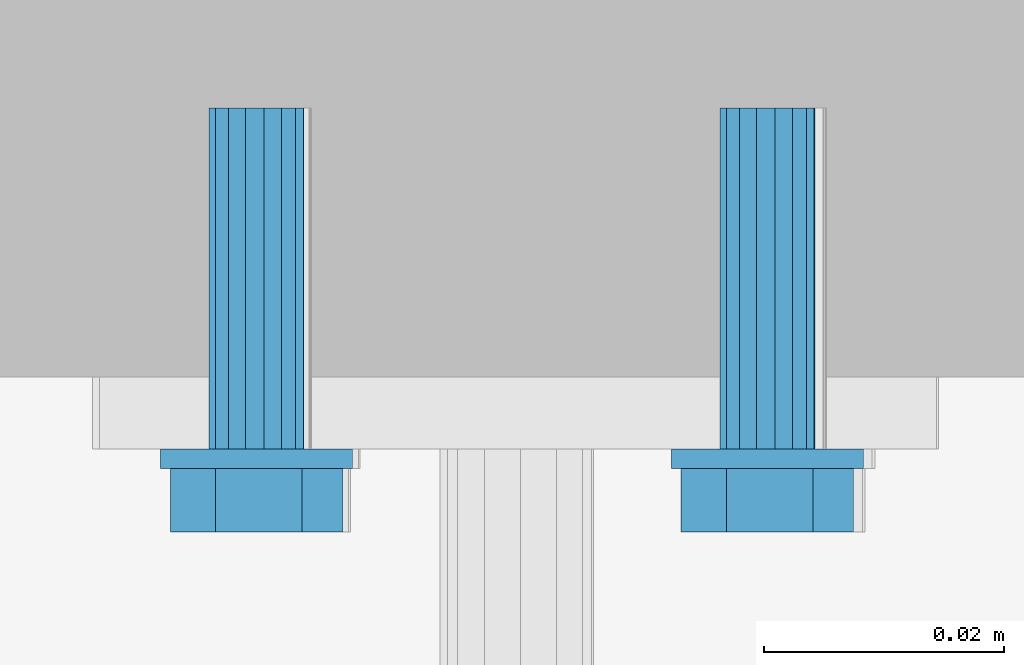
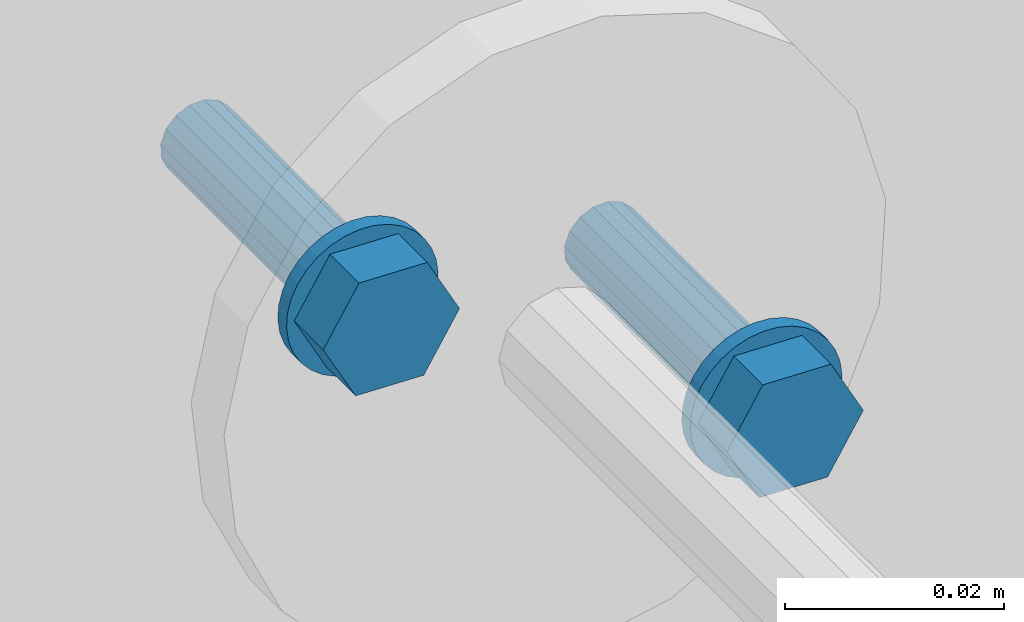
# One storey, part 360 of 410: 1 mechanical fastener.
"""IFC2X3 building model written with IfcOpenShell, lengths in millimetres."""

import ifcopenshell
import ifcopenshell.guid

model = None  # the IFC model being written
_history = None  # IfcOwnerHistory: only IFC2X3 demands one
_inside = {}  # id of a spatial element -> (the spatial element, [elements in it])
_under = {}  # id of a project, library or spatial element -> (it, [spatial elements below it])
_declared = {}  # id of a project -> (the project, [libraries it declares])
_typed = {}  # id of a type object -> (the type object, [elements of that type])
_made_of = {}  # id of a material, layer set ... -> (it, [elements and type objects made of it])


def new_model(schema):
    """Start an empty IFC model of exactly this schema.

    Asked for "IFC4X3", IfcOpenShell would pick the latest addendum, in which some entities
    have other attributes; the version numbers below select the first issue.
    IFC2X3 requires an IfcOwnerHistory on every rooted entity: one is made here for all.
    """
    global model, _history
    if schema == "IFC4X3":
        model = ifcopenshell.file(schema_version=(4, 3, 0, 0))
    else:
        model = ifcopenshell.file(schema=schema)
    _inside.clear()
    _under.clear()
    _declared.clear()
    _typed.clear()
    _made_of.clear()
    _history = None
    if model.schema == "IFC2X3":
        org = make("IfcOrganization", Name="unknown")
        user = make(
            "IfcPersonAndOrganization",
            ThePerson=make("IfcPerson", FamilyName="unknown"),
            TheOrganization=org,
        )
        app = make(
            "IfcApplication",
            ApplicationDeveloper=org,
            Version="unknown",
            ApplicationFullName="unknown",
            ApplicationIdentifier="unknown",
        )
        _history = make(
            "IfcOwnerHistory",
            OwningUser=user,
            OwningApplication=app,
            ChangeAction="ADDED",
            CreationDate=0,
        )
    return model


def make(cls, **values):
    """One entity of the class cls with the attributes given. An attribute that is None is left unset."""
    return model.create_entity(
        cls, **{name: value for name, value in values.items() if value is not None}
    )


def entity(cls, *values):
    """Any entity or typed value of the class cls, its attributes in the order of the schema. None: left unset."""
    e = model.create_entity(cls)
    for i, value in enumerate(values):
        if value is not None:
            e[i] = value
    return e


def rooted(cls, **values):
    """An entity with a GlobalId (a new one), such as an element, a storey or a relation."""
    return make(cls, GlobalId=ifcopenshell.guid.new(), OwnerHistory=_history, **values)


def si_unit(unit_type, name, prefix=None):
    """IfcSIUnit, for example si_unit("LENGTHUNIT", "METRE", prefix="MILLI")."""
    return make("IfcSIUnit", UnitType=unit_type, Prefix=prefix, Name=name)


def converted_unit(unit_type, name, factor, base, dimensions=None, offset=None):
    """IfcConversionBasedUnit, such as the inch: factor (a typed value) times the base unit."""
    return make(
        "IfcConversionBasedUnit"
        if offset is None
        else "IfcConversionBasedUnitWithOffset",
        ConversionOffset=offset,
        Dimensions=None
        if dimensions is None
        else entity("IfcDimensionalExponents", *dimensions),
        UnitType=unit_type,
        Name=name,
        ConversionFactor=make(
            "IfcMeasureWithUnit", ValueComponent=factor, UnitComponent=base
        ),
    )


def assignment(units):
    """IfcUnitAssignment: the units of a project."""
    return None if units is None else make("IfcUnitAssignment", Units=units)


def point(xyz):
    """IfcCartesianPoint."""
    return None if xyz is None else make("IfcCartesianPoint", Coordinates=xyz)


def direction(xyz):
    """IfcDirection."""
    return None if xyz is None else make("IfcDirection", DirectionRatios=xyz)


def frame(location, z_axis=None, x_axis=None):
    """IfcAxis2Placement3D, a coordinate frame: its origin and axes. An axis left out is left unset."""
    return make(
        "IfcAxis2Placement3D",
        Location=point(location),
        Axis=direction(z_axis),
        RefDirection=direction(x_axis),
    )


def origin_with_axes():
    """The frame at (0, 0, 0) with the z axis (0, 0, 1) and the x axis (1, 0, 0) written out."""
    return frame((0.0, 0.0, 0.0), z_axis=(0.0, 0.0, 1.0), x_axis=(1.0, 0.0, 0.0))


def place(relative_to, where):
    """IfcLocalPlacement: puts the frame where relative to a parent placement (None: the world)."""
    return make(
        "IfcLocalPlacement", PlacementRelTo=relative_to, RelativePlacement=where
    )


def context(
    kind, dimensions, precision=None, world=None, true_north=None, identifier=None
):
    """IfcGeometricRepresentationContext, for example the 3D "Model" context."""
    return make(
        "IfcGeometricRepresentationContext",
        ContextIdentifier=identifier,
        ContextType=kind,
        CoordinateSpaceDimension=dimensions,
        Precision=precision,
        WorldCoordinateSystem=world,
        TrueNorth=true_north,
    )


def project(units=None, contexts=None):
    """IfcProject with its units and contexts."""
    return rooted(
        "IfcProject",
        Name="project",
        RepresentationContexts=contexts,
        UnitsInContext=assignment(units),
    )


def spatial(cls, under=None, at=None, **own):
    """A site, building, storey or space (cls), placed at a placement, below another one or the project."""
    s = rooted(cls, ObjectPlacement=at, **own)
    if under is not None:
        _under.setdefault(under.id(), (under, []))[1].append(s)
    return s


def faces_of(points, faces, orient=None, outer=None):
    """IfcFace entities. A face is a list of loops; a loop is a list of indices into points, from 0.

    orient and outer hold one flag for each loop. By default every Orientation is true, the
    first loop of a face is its IfcFaceOuterBound and the others are IfcFaceBound.
    """
    made = []
    for i, loops in enumerate(faces):
        bounds = []
        for j, loop in enumerate(loops):
            is_outer = j == 0 if outer is None else outer[i][j]
            bounds.append(
                make(
                    "IfcFaceOuterBound" if is_outer else "IfcFaceBound",
                    Bound=make("IfcPolyLoop", Polygon=[points[k] for k in loop]),
                    Orientation=True if orient is None else orient[i][j],
                )
            )
        made.append(make("IfcFace", Bounds=bounds))
    return made


def faceted_brep(points, faces, orient=None, outer=None, voids=None):
    """IfcFacetedBrep: a solid bounded by flat faces; with voids (closed shells), ...WithVoids."""
    shared = [point(p) for p in points]
    hull = make("IfcClosedShell", CfsFaces=faces_of(shared, faces, orient, outer))
    if voids is None:
        return make("IfcFacetedBrep", Outer=hull)
    return make(
        "IfcFacetedBrepWithVoids",
        Outer=hull,
        Voids=[
            make(cls, CfsFaces=faces_of(shared, fs, o, b)) for cls, fs, o, b in voids
        ],
    )


def shape(context_of_items, identifier, shape_type, items):
    """IfcShapeRepresentation: the items that make up one representation, for example the "Body"."""
    return make(
        "IfcShapeRepresentation",
        ContextOfItems=context_of_items,
        RepresentationIdentifier=identifier,
        RepresentationType=shape_type,
        Items=items,
    )


def made_of(thing, what):
    """Note that an element or type object is made of a material, layer set ...; save() writes the relation."""
    if what is not None:
        _made_of.setdefault(what.id(), (what, []))[1].append(thing)
    return thing


def element(
    cls,
    number,
    at=None,
    inside=None,
    cuts=None,
    type_object=None,
    material=None,
    context=None,
    identifier="Body",
    shape_type=None,
    held_by="IfcProductDefinitionShape",
    body=None,
    shapes=None,
    **own,
):
    """One element of the class cls, such as IfcWall. Its Tag is "e" and its number.

    at: its placement. inside: the storey or other place that contains it. cuts: it is an
    opening in that element (IfcRelVoidsElement). A single representation is given by context,
    identifier, shape_type and body (its items); several are given by shapes. held_by: the class
    of the entity that holds the representations. save() writes the other relations.
    """
    e = rooted(cls, Tag="e%d" % number, ObjectPlacement=at, **own)
    if body is not None:
        shapes = [shape(context, identifier, shape_type, body)]
    if shapes is not None:
        e.Representation = make(held_by, Representations=shapes)
    if inside is not None:
        _inside.setdefault(inside.id(), (inside, []))[1].append(e)
    if cuts is not None:
        rooted(
            "IfcRelVoidsElement", RelatingBuildingElement=cuts, RelatedOpeningElement=e
        )
    if type_object is not None:
        _typed.setdefault(type_object.id(), (type_object, []))[1].append(e)
    return made_of(e, material)


def aggregate(whole, parts):
    """IfcRelAggregates: a whole, such as a stair, and the parts it consists of."""
    return rooted("IfcRelAggregates", RelatingObject=whole, RelatedObjects=parts)


def save(model, path):
    """Write the relations noted so far, then the file.

    IfcRelAggregates (storeys below a building ...), IfcRelContainedInSpatialStructure (elements
    in a storey), IfcRelDefinesByType, IfcRelAssociatesMaterial and IfcRelDeclares: one each for
    every whole, place, type object, material and project.
    """
    for whole, parts in _under.values():
        aggregate(whole, parts)
    for where, things in _inside.values():
        rooted(
            "IfcRelContainedInSpatialStructure",
            RelatedElements=things,
            RelatingStructure=where,
        )
    for kind, things in _typed.values():
        rooted("IfcRelDefinesByType", RelatedObjects=things, RelatingType=kind)
    for what, things in _made_of.values():
        rooted("IfcRelAssociatesMaterial", RelatedObjects=things, RelatingMaterial=what)
    for by, libraries in _declared.values():
        rooted("IfcRelDeclares", RelatingContext=by, RelatedDefinitions=libraries)
    model.write(path)


model = new_model("IFC2X3")

# Units and contexts
model_context = context("Model", 3, precision=1e-09, world=origin_with_axes())
ifc_project = project(units=[si_unit("LENGTHUNIT", "METRE", prefix="MILLI"), si_unit("AREAUNIT", "SQUARE_METRE"), si_unit("VOLUMEUNIT", "CUBIC_METRE"), converted_unit("PLANEANGLEUNIT", "DEGREE", entity("IfcPlaneAngleMeasure", 0.01745329), si_unit("PLANEANGLEUNIT", "RADIAN"), dimensions=[0, 0, 0, 0, 0, 0, 0])], contexts=[model_context])

# Site, building, storey
site_placement = place(None, origin_with_axes())
site = spatial("IfcSite", under=ifc_project, at=site_placement, Name="mKR Teilneubau & Sanierung BA1 - Ostfildern", CompositionType="ELEMENT")
building_placement = place(site_placement, origin_with_axes())
building = spatial("IfcBuilding", under=site, at=building_placement, Name="Struktur 1", CompositionType="ELEMENT")
storey_placement = place(building_placement, origin_with_axes())
storey = spatial("IfcBuildingStorey", under=building, at=storey_placement, Name="Default Storey", CompositionType="ELEMENT", Elevation=0.0)

# Mechanical fastener
mechanical_fastener_placement = place(None, origin_with_axes())
element("IfcMechanicalFastener", 1, at=mechanical_fastener_placement, inside=storey, ObjectType="-", NominalDiameter=8.0, NominalLength=30.0, context=model_context, shape_type="Brep", body=[
    faceted_brep([(1085.108528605, 18612.400061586, -1008.166793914), (1085.108528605, 18614.000061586, -1008.166793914), (1084.420280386, 18614.000061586, -1009.575977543), (1084.420280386, 18612.400061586, -1009.575977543), (1084.020174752, 18614.000061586, -1011.092354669), (1084.020174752, 18612.400061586, -1011.092354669), (1083.923587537, 18614.000061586, -1012.657651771), (1083.923587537, 18612.400061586, -1012.657651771), (1084.134230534, 18614.000061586, -1014.211715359), (1084.134230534, 18612.400061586, -1014.211715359), (1084.644008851, 18614.000061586, -1015.694823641), (1084.644008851, 18612.400061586, -1015.694823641), (1085.433331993, 18614.000061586, -1017.049981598), (1085.433331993, 18612.400061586, -1017.049981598), (1086.471866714, 18614.000061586, -1018.225111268), (1086.471866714, 18612.400061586, -1018.225111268), (1087.719702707, 18614.000061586, -1019.175053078), (1087.719702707, 18612.400061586, -1019.175053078), (1089.128886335, 18614.000061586, -1019.863301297), (1089.128886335, 18612.400061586, -1019.863301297), (1090.645263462, 18614.000061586, -1020.263406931), (1090.645263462, 18612.400061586, -1020.263406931), (1092.210560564, 18614.000061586, -1020.359994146), (1092.210560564, 18612.400061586, -1020.359994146), (1093.764624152, 18614.000061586, -1020.149351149), (1093.764624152, 18612.400061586, -1020.149351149), (1095.247732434, 18614.000061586, -1019.639572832), (1095.247732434, 18612.400061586, -1019.639572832), (1096.60289039, 18614.000061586, -1018.85024969), (1096.60289039, 18612.400061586, -1018.85024969), (1097.77802006, 18614.000061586, -1017.811714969), (1097.77802006, 18612.400061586, -1017.811714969), (1098.72796187, 18614.000061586, -1016.563878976), (1098.72796187, 18612.400061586, -1016.563878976), (1099.416210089, 18614.000061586, -1015.154695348), (1099.416210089, 18612.400061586, -1015.154695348), (1099.816315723, 18614.000061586, -1013.638318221), (1099.816315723, 18612.400061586, -1013.638318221), (1099.912902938, 18614.000061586, -1012.073021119), (1099.912902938, 18612.400061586, -1012.073021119), (1099.702259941, 18614.000061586, -1010.518957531), (1099.702259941, 18612.400061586, -1010.518957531), (1099.192481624, 18614.000061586, -1009.035849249), (1099.192481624, 18612.400061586, -1009.035849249), (1098.403158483, 18614.000061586, -1007.680691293), (1098.403158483, 18612.400061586, -1007.680691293), (1097.364623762, 18614.000061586, -1006.505561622), (1097.364623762, 18612.400061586, -1006.505561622), (1096.116787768, 18614.000061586, -1005.555619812), (1096.116787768, 18612.400061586, -1005.555619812), (1094.70760414, 18614.000061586, -1004.867371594), (1094.70760414, 18612.400061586, -1004.867371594), (1093.191227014, 18614.000061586, -1004.467265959), (1093.191227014, 18612.400061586, -1004.467265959), (1091.625929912, 18614.000061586, -1004.370678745), (1091.625929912, 18612.400061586, -1004.370678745), (1090.071866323, 18614.000061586, -1004.581321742), (1090.071866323, 18612.400061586, -1004.581321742), (1088.588758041, 18614.000061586, -1005.091100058), (1088.588758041, 18612.400061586, -1005.091100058), (1087.233600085, 18614.000061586, -1005.8804232), (1087.233600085, 18612.400061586, -1005.8804232), (1086.058470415, 18614.000061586, -1006.918957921), (1086.058470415, 18612.400061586, -1006.918957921)], [[[0, 1, 2, 3]], [[3, 2, 4, 5]], [[5, 4, 6, 7]], [[7, 6, 8, 9]], [[9, 8, 10, 11]], [[11, 10, 12, 13]], [[13, 12, 14, 15]], [[15, 14, 16, 17]], [[17, 16, 18, 19]], [[19, 18, 20, 21]], [[21, 20, 22, 23]], [[23, 22, 24, 25]], [[25, 24, 26, 27]], [[27, 26, 28, 29]], [[29, 28, 30, 31]], [[31, 30, 32, 33]], [[33, 32, 34, 35]], [[35, 34, 36, 37]], [[37, 36, 38, 39]], [[39, 38, 40, 41]], [[41, 40, 42, 43]], [[43, 42, 44, 45]], [[45, 44, 46, 47]], [[47, 46, 48, 49]], [[49, 48, 50, 51]], [[51, 50, 52, 53]], [[53, 52, 54, 55]], [[55, 54, 56, 57]], [[57, 56, 58, 59]], [[59, 58, 60, 61]], [[61, 60, 62, 63]], [[63, 62, 1, 0]], [[0, 3, 5, 7, 9, 11, 13, 15, 17, 19, 21, 23, 25, 27, 29, 31, 33, 35, 37, 39, 41, 43, 45, 47, 49, 51, 53, 55, 57, 59, 61, 63]], [[1, 62, 60, 58, 56, 54, 52, 50, 48, 46, 44, 42, 40, 38, 36, 34, 32, 30, 28, 26, 24, 22, 20, 18, 16, 14, 12, 10, 8, 6, 4, 2]]]),
    faceted_brep([(1042.547799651, 18612.400061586, -981.925903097), (1042.547799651, 18614.000061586, -981.925903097), (1041.859551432, 18614.000061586, -983.335086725), (1041.859551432, 18612.400061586, -983.335086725), (1041.459445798, 18614.000061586, -984.851463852), (1041.459445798, 18612.400061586, -984.851463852), (1041.362858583, 18614.000061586, -986.416760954), (1041.362858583, 18612.400061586, -986.416760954), (1041.57350158, 18614.000061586, -987.970824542), (1041.57350158, 18612.400061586, -987.970824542), (1042.083279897, 18614.000061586, -989.453932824), (1042.083279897, 18612.400061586, -989.453932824), (1042.872603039, 18614.000061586, -990.80909078), (1042.872603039, 18612.400061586, -990.80909078), (1043.911137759, 18614.000061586, -991.984220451), (1043.911137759, 18612.400061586, -991.984220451), (1045.158973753, 18614.000061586, -992.934162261), (1045.158973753, 18612.400061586, -992.934162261), (1046.568157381, 18614.000061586, -993.622410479), (1046.568157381, 18612.400061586, -993.622410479), (1048.084534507, 18614.000061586, -994.022516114), (1048.084534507, 18612.400061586, -994.022516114), (1049.64983161, 18614.000061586, -994.119103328), (1049.64983161, 18612.400061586, -994.119103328), (1051.203895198, 18614.000061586, -993.908460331), (1051.203895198, 18612.400061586, -993.908460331), (1052.68700348, 18614.000061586, -993.398682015), (1052.68700348, 18612.400061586, -993.398682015), (1054.042161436, 18614.000061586, -992.609358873), (1054.042161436, 18612.400061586, -992.609358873), (1055.217291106, 18614.000061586, -991.570824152), (1055.217291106, 18612.400061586, -991.570824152), (1056.167232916, 18614.000061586, -990.322988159), (1056.167232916, 18612.400061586, -990.322988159), (1056.855481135, 18614.000061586, -988.91380453), (1056.855481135, 18612.400061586, -988.91380453), (1057.255586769, 18614.000061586, -987.397427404), (1057.255586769, 18612.400061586, -987.397427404), (1057.352173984, 18614.000061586, -985.832130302), (1057.352173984, 18612.400061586, -985.832130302), (1057.141530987, 18614.000061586, -984.278066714), (1057.141530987, 18612.400061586, -984.278066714), (1056.63175267, 18614.000061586, -982.794958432), (1056.63175267, 18612.400061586, -982.794958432), (1055.842429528, 18614.000061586, -981.439800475), (1055.842429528, 18612.400061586, -981.439800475), (1054.803894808, 18614.000061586, -980.264670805), (1054.803894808, 18612.400061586, -980.264670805), (1053.556058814, 18614.000061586, -979.314728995), (1053.556058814, 18612.400061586, -979.314728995), (1052.146875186, 18614.000061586, -978.626480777), (1052.146875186, 18612.400061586, -978.626480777), (1050.63049806, 18614.000061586, -978.226375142), (1050.63049806, 18612.400061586, -978.226375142), (1049.065200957, 18614.000061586, -978.129787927), (1049.065200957, 18612.400061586, -978.129787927), (1047.511137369, 18614.000061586, -978.340430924), (1047.511137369, 18612.400061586, -978.340430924), (1046.028029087, 18614.000061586, -978.850209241), (1046.028029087, 18612.400061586, -978.850209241), (1044.672871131, 18614.000061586, -979.639532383), (1044.672871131, 18612.400061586, -979.639532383), (1043.497741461, 18614.000061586, -980.678067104), (1043.497741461, 18612.400061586, -980.678067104)], [[[0, 1, 2, 3]], [[3, 2, 4, 5]], [[5, 4, 6, 7]], [[7, 6, 8, 9]], [[9, 8, 10, 11]], [[11, 10, 12, 13]], [[13, 12, 14, 15]], [[15, 14, 16, 17]], [[17, 16, 18, 19]], [[19, 18, 20, 21]], [[21, 20, 22, 23]], [[23, 22, 24, 25]], [[25, 24, 26, 27]], [[27, 26, 28, 29]], [[29, 28, 30, 31]], [[31, 30, 32, 33]], [[33, 32, 34, 35]], [[35, 34, 36, 37]], [[37, 36, 38, 39]], [[39, 38, 40, 41]], [[41, 40, 42, 43]], [[43, 42, 44, 45]], [[45, 44, 46, 47]], [[47, 46, 48, 49]], [[49, 48, 50, 51]], [[51, 50, 52, 53]], [[53, 52, 54, 55]], [[55, 54, 56, 57]], [[57, 56, 58, 59]], [[59, 58, 60, 61]], [[61, 60, 62, 63]], [[63, 62, 1, 0]], [[0, 3, 5, 7, 9, 11, 13, 15, 17, 19, 21, 23, 25, 27, 29, 31, 33, 35, 37, 39, 41, 43, 45, 47, 49, 51, 53, 55, 57, 59, 61, 63]], [[1, 62, 60, 58, 56, 54, 52, 50, 48, 46, 44, 42, 40, 38, 36, 34, 32, 30, 28, 26, 24, 22, 20, 18, 16, 14, 12, 10, 8, 6, 4, 2]]]),
    faceted_brep([(1095.33180229, 18612.400061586, -1018.693347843), (1095.33180229, 18607.100061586, -1018.693347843), (1088.144805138, 18607.100061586, -1018.485569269), (1088.144805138, 18612.400061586, -1018.485569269), (1084.731248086, 18607.100061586, -1012.157557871), (1084.731248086, 18612.400061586, -1012.157557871), (1088.504688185, 18607.100061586, -1006.037325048), (1088.504688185, 18612.400061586, -1006.037325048), (1095.691685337, 18607.100061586, -1006.245103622), (1095.691685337, 18612.400061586, -1006.245103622), (1099.10524239, 18607.100061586, -1012.573115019), (1099.10524239, 18612.400061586, -1012.573115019)], [[[0, 1, 2, 3]], [[3, 2, 4, 5]], [[5, 4, 6, 7]], [[7, 6, 8, 9]], [[9, 8, 10, 11]], [[11, 10, 1, 0]], [[4, 2, 1, 10, 8, 6]], [[0, 3, 5, 7, 9, 11]]]),
    faceted_brep([(1052.771073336, 18612.400061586, -992.452457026), (1052.771073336, 18607.100061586, -992.452457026), (1045.584076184, 18607.100061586, -992.244678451), (1045.584076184, 18612.400061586, -992.244678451), (1042.170519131, 18607.100061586, -985.916667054), (1042.170519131, 18612.400061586, -985.916667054), (1045.943959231, 18607.100061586, -979.79643423), (1045.943959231, 18612.400061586, -979.79643423), (1053.130956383, 18607.100061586, -980.004212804), (1053.130956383, 18612.400061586, -980.004212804), (1056.544513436, 18607.100061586, -986.332224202), (1056.544513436, 18612.400061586, -986.332224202)], [[[0, 1, 2, 3]], [[3, 2, 4, 5]], [[5, 4, 6, 7]], [[7, 6, 8, 9]], [[9, 8, 10, 11]], [[11, 10, 1, 0]], [[4, 2, 1, 10, 8, 6]], [[0, 3, 5, 7, 9, 11]]]),
    faceted_brep([(1088.513386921, 18614.000061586, -1010.26606518), (1088.513386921, 18624.000061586, -1010.26606518), (1087.969209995, 18624.000061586, -1011.728845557), (1087.969209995, 18614.000061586, -1011.728845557), (1088.026237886, 18624.000061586, -1013.288525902), (1088.026237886, 18614.000061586, -1013.288525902), (1088.675788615, 18624.000061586, -1014.707659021), (1088.675788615, 18614.000061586, -1014.707659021), (1089.818973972, 18624.000061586, -1015.770194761), (1089.818973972, 18614.000061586, -1015.770194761), (1091.28175435, 18624.000061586, -1016.314371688), (1091.28175435, 18614.000061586, -1016.314371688), (1092.841434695, 18624.000061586, -1016.257343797), (1092.841434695, 18614.000061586, -1016.257343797), (1094.260567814, 18624.000061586, -1015.607793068), (1094.260567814, 18614.000061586, -1015.607793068), (1095.323103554, 18624.000061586, -1014.464607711), (1095.323103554, 18614.000061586, -1014.464607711), (1095.867280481, 18624.000061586, -1013.001827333), (1095.867280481, 18614.000061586, -1013.001827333), (1095.810252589, 18624.000061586, -1011.442146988), (1095.810252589, 18614.000061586, -1011.442146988), (1095.16070186, 18624.000061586, -1010.023013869), (1095.16070186, 18614.000061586, -1010.023013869), (1094.017516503, 18624.000061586, -1008.960478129), (1094.017516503, 18614.000061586, -1008.960478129), (1092.554736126, 18624.000061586, -1008.416301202), (1092.554736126, 18614.000061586, -1008.416301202), (1090.995055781, 18624.000061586, -1008.473329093), (1090.995055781, 18614.000061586, -1008.473329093), (1089.575922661, 18624.000061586, -1009.122879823), (1089.575922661, 18614.000061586, -1009.122879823)], [[[0, 1, 2, 3]], [[3, 2, 4, 5]], [[5, 4, 6, 7]], [[7, 6, 8, 9]], [[9, 8, 10, 11]], [[11, 10, 12, 13]], [[13, 12, 14, 15]], [[15, 14, 16, 17]], [[17, 16, 18, 19]], [[19, 18, 20, 21]], [[21, 20, 22, 23]], [[23, 22, 24, 25]], [[25, 24, 26, 27]], [[27, 26, 28, 29]], [[29, 28, 30, 31]], [[31, 30, 1, 0]], [[0, 3, 5, 7, 9, 11, 13, 15, 17, 19, 21, 23, 25, 27, 29, 31]], [[1, 30, 28, 26, 24, 22, 20, 18, 16, 14, 12, 10, 8, 6, 4, 2]]]),
    faceted_brep([(1045.952657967, 18614.000061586, -984.025174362), (1045.952657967, 18624.000061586, -984.025174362), (1045.408481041, 18624.000061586, -985.48795474), (1045.408481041, 18614.000061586, -985.48795474), (1045.465508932, 18624.000061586, -987.047635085), (1045.465508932, 18614.000061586, -987.047635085), (1046.115059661, 18624.000061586, -988.466768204), (1046.115059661, 18614.000061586, -988.466768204), (1047.258245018, 18624.000061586, -989.529303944), (1047.258245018, 18614.000061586, -989.529303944), (1048.721025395, 18624.000061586, -990.073480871), (1048.721025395, 18614.000061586, -990.073480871), (1050.280705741, 18624.000061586, -990.01645298), (1050.280705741, 18614.000061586, -990.01645298), (1051.69983886, 18624.000061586, -989.36690225), (1051.69983886, 18614.000061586, -989.36690225), (1052.7623746, 18624.000061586, -988.223716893), (1052.7623746, 18614.000061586, -988.223716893), (1053.306551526, 18624.000061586, -986.760936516), (1053.306551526, 18614.000061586, -986.760936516), (1053.249523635, 18624.000061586, -985.201256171), (1053.249523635, 18614.000061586, -985.201256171), (1052.599972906, 18624.000061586, -983.782123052), (1052.599972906, 18614.000061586, -983.782123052), (1051.456787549, 18624.000061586, -982.719587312), (1051.456787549, 18614.000061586, -982.719587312), (1049.994007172, 18624.000061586, -982.175410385), (1049.994007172, 18614.000061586, -982.175410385), (1048.434326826, 18624.000061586, -982.232438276), (1048.434326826, 18614.000061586, -982.232438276), (1047.015193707, 18624.000061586, -982.881989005), (1047.015193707, 18614.000061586, -982.881989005)], [[[0, 1, 2, 3]], [[3, 2, 4, 5]], [[5, 4, 6, 7]], [[7, 6, 8, 9]], [[9, 8, 10, 11]], [[11, 10, 12, 13]], [[13, 12, 14, 15]], [[15, 14, 16, 17]], [[17, 16, 18, 19]], [[19, 18, 20, 21]], [[21, 20, 22, 23]], [[23, 22, 24, 25]], [[25, 24, 26, 27]], [[27, 26, 28, 29]], [[29, 28, 30, 31]], [[31, 30, 1, 0]], [[0, 3, 5, 7, 9, 11, 13, 15, 17, 19, 21, 23, 25, 27, 29, 31]], [[1, 30, 28, 26, 24, 22, 20, 18, 16, 14, 12, 10, 8, 6, 4, 2]]]),
    faceted_brep([(1088.513386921, 18624.000061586, -1010.26606518), (1088.513386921, 18642.400061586, -1010.26606518), (1087.969209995, 18642.400061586, -1011.728845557), (1087.969209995, 18624.000061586, -1011.728845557), (1088.026237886, 18642.400061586, -1013.288525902), (1088.026237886, 18624.000061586, -1013.288525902), (1088.675788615, 18642.400061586, -1014.707659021), (1088.675788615, 18624.000061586, -1014.707659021), (1089.818973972, 18642.400061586, -1015.770194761), (1089.818973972, 18624.000061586, -1015.770194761), (1091.28175435, 18642.400061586, -1016.314371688), (1091.28175435, 18624.000061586, -1016.314371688), (1092.841434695, 18642.400061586, -1016.257343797), (1092.841434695, 18624.000061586, -1016.257343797), (1094.260567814, 18642.400061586, -1015.607793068), (1094.260567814, 18624.000061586, -1015.607793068), (1095.323103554, 18642.400061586, -1014.464607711), (1095.323103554, 18624.000061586, -1014.464607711), (1095.867280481, 18642.400061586, -1013.001827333), (1095.867280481, 18624.000061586, -1013.001827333), (1095.810252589, 18642.400061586, -1011.442146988), (1095.810252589, 18624.000061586, -1011.442146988), (1095.16070186, 18642.400061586, -1010.023013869), (1095.16070186, 18624.000061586, -1010.023013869), (1094.017516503, 18642.400061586, -1008.960478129), (1094.017516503, 18624.000061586, -1008.960478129), (1092.554736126, 18642.400061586, -1008.416301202), (1092.554736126, 18624.000061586, -1008.416301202), (1090.995055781, 18642.400061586, -1008.473329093), (1090.995055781, 18624.000061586, -1008.473329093), (1089.575922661, 18642.400061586, -1009.122879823), (1089.575922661, 18624.000061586, -1009.122879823)], [[[0, 1, 2, 3]], [[3, 2, 4, 5]], [[5, 4, 6, 7]], [[7, 6, 8, 9]], [[9, 8, 10, 11]], [[11, 10, 12, 13]], [[13, 12, 14, 15]], [[15, 14, 16, 17]], [[17, 16, 18, 19]], [[19, 18, 20, 21]], [[21, 20, 22, 23]], [[23, 22, 24, 25]], [[25, 24, 26, 27]], [[27, 26, 28, 29]], [[29, 28, 30, 31]], [[31, 30, 1, 0]], [[0, 3, 5, 7, 9, 11, 13, 15, 17, 19, 21, 23, 25, 27, 29, 31]], [[1, 30, 28, 26, 24, 22, 20, 18, 16, 14, 12, 10, 8, 6, 4, 2]]]),
    faceted_brep([(1045.952657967, 18624.000061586, -984.025174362), (1045.952657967, 18642.400061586, -984.025174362), (1045.408481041, 18642.400061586, -985.48795474), (1045.408481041, 18624.000061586, -985.48795474), (1045.465508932, 18642.400061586, -987.047635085), (1045.465508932, 18624.000061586, -987.047635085), (1046.115059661, 18642.400061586, -988.466768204), (1046.115059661, 18624.000061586, -988.466768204), (1047.258245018, 18642.400061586, -989.529303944), (1047.258245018, 18624.000061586, -989.529303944), (1048.721025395, 18642.400061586, -990.073480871), (1048.721025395, 18624.000061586, -990.073480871), (1050.280705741, 18642.400061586, -990.01645298), (1050.280705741, 18624.000061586, -990.01645298), (1051.69983886, 18642.400061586, -989.36690225), (1051.69983886, 18624.000061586, -989.36690225), (1052.7623746, 18642.400061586, -988.223716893), (1052.7623746, 18624.000061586, -988.223716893), (1053.306551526, 18642.400061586, -986.760936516), (1053.306551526, 18624.000061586, -986.760936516), (1053.249523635, 18642.400061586, -985.201256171), (1053.249523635, 18624.000061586, -985.201256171), (1052.599972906, 18642.400061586, -983.782123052), (1052.599972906, 18624.000061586, -983.782123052), (1051.456787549, 18642.400061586, -982.719587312), (1051.456787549, 18624.000061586, -982.719587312), (1049.994007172, 18642.400061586, -982.175410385), (1049.994007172, 18624.000061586, -982.175410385), (1048.434326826, 18642.400061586, -982.232438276), (1048.434326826, 18624.000061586, -982.232438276), (1047.015193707, 18642.400061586, -982.881989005), (1047.015193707, 18624.000061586, -982.881989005)], [[[0, 1, 2, 3]], [[3, 2, 4, 5]], [[5, 4, 6, 7]], [[7, 6, 8, 9]], [[9, 8, 10, 11]], [[11, 10, 12, 13]], [[13, 12, 14, 15]], [[15, 14, 16, 17]], [[17, 16, 18, 19]], [[19, 18, 20, 21]], [[21, 20, 22, 23]], [[23, 22, 24, 25]], [[25, 24, 26, 27]], [[27, 26, 28, 29]], [[29, 28, 30, 31]], [[31, 30, 1, 0]], [[0, 3, 5, 7, 9, 11, 13, 15, 17, 19, 21, 23, 25, 27, 29, 31]], [[1, 30, 28, 26, 24, 22, 20, 18, 16, 14, 12, 10, 8, 6, 4, 2]]]),
])

save(model, "model.ifc")
